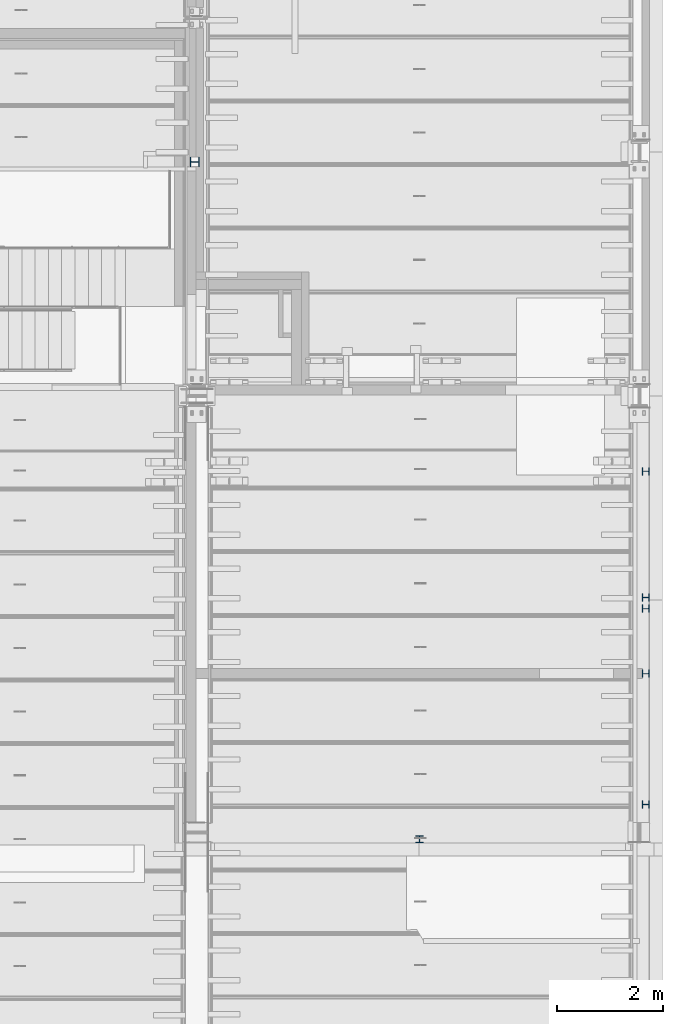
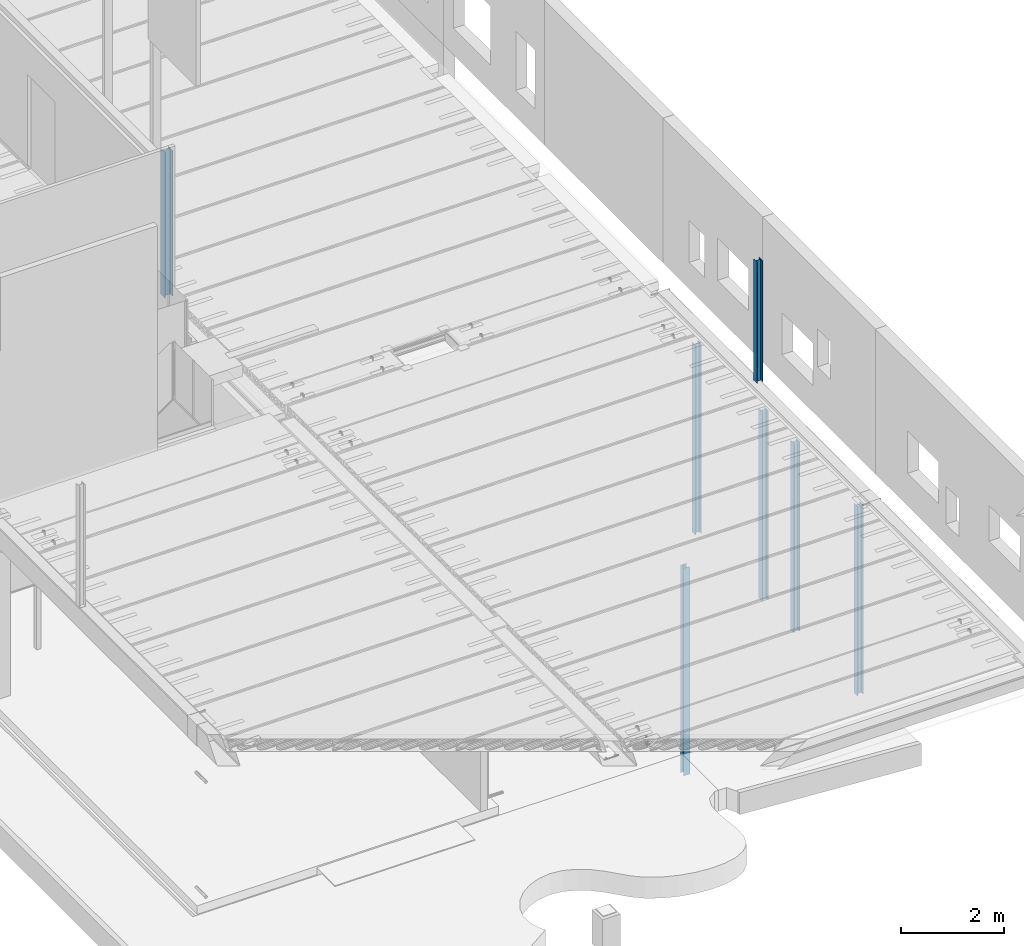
# One storey, part 3 of 230: 7 columns.
"""IFC4X3_ADD2 building model written with IfcOpenShell, lengths in millimetres."""

from ifc_helpers import new_model, si_unit, point, direction, frame, frame_2d, origin_with_axes, place, context, subcontext, project, spatial, polyline, circle_curve, trimmed, segment, composite_curve, outline, extrude, source, transform, mapped, material, type_object, type_shapes, element, save


model = new_model("IFC4X3_ADD2")

# Units and contexts
model_context = context("Model", 3, precision=1e-05, world=origin_with_axes(), true_north=direction((0.0, 1.0)))
body_context = subcontext(model_context, "Body", "Model", "MODEL_VIEW")
ifc_project = project(units=[si_unit("LENGTHUNIT", "METRE", prefix="MILLI"), si_unit("AREAUNIT", "SQUARE_METRE"), si_unit("VOLUMEUNIT", "CUBIC_METRE"), si_unit("PLANEANGLEUNIT", "RADIAN"), si_unit("TIMEUNIT", "SECOND"), si_unit("MASSUNIT", "GRAM")], contexts=[model_context])

# Site, building, storey
site_placement = place(None, origin_with_axes())
site = spatial("IfcSite", under=ifc_project, at=site_placement, Name="Site", CompositionType="ELEMENT")
building_placement = place(site_placement, origin_with_axes())
building = spatial("IfcBuilding", under=site, at=building_placement, Name="IFC Building Story")
storey_placement = place(building_placement, origin_with_axes())
storey = spatial("IfcBuildingStorey", under=building, at=storey_placement, Name="ETAGE 00 (0)", Elevation=0.0)

# Columns
ifc_material = material(Name="BS_28_Métal")
column_type_1 = type_object("IfcColumnType", Name="BS_28_SCO_LE_Poteau HE-A_HEA180_5", PredefinedType="NOTDEFINED")
shared_shape_1 = source(origin_with_axes(), body_context, "Body", "SweptSolid", [
    extrude(outline(composite_curve([segment(polyline([(85.5, -90.00000000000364), (76.0, -90.00000000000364)]), True, "CONTINUOUS"), segment(polyline([(76.0, -90.00000000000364), (76.0, -18.00000000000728)]), True, "CONTINUOUS"), segment(trimmed(circle_curve(frame_2d((60.99999999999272, -18.00000000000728), x_axis=(1.0, 0.0)), 14.99999999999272), [point((76.0, -18.00000000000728))], [point((60.99999999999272, -3.000000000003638))], True, "CARTESIAN"), True, "CONTINUOUS"), segment(polyline([(60.99999999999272, -3.000000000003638), (-60.99999999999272, -3.000000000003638)]), True, "CONTINUOUS"), segment(trimmed(circle_curve(frame_2d((-60.99999999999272, -18.00000000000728), x_axis=(1.0, 0.0)), 14.99999999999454), [point((-60.99999999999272, -3.000000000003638))], [point((-75.99999999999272, -18.00000000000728))], True, "CARTESIAN"), True, "CONTINUOUS"), segment(polyline([(-75.99999999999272, -18.00000000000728), (-75.99999999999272, -90.00000000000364)]), True, "CONTINUOUS"), segment(polyline([(-75.99999999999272, -90.00000000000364), (-85.49999999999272, -90.00000000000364)]), True, "CONTINUOUS"), segment(polyline([(-85.49999999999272, -90.00000000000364), (-85.49999999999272, 89.99999999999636)]), True, "CONTINUOUS"), segment(polyline([(-85.49999999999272, 89.99999999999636), (-75.99999999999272, 89.99999999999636)]), True, "CONTINUOUS"), segment(polyline([(-75.99999999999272, 89.99999999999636), (-75.99999999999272, 17.99999999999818)]), True, "CONTINUOUS"), segment(trimmed(circle_curve(frame_2d((-60.99999999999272, 17.99999999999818), x_axis=(1.0, 0.0)), 14.99999999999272), [point((-75.99999999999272, 17.99999999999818))], [point((-60.99999999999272, 2.999999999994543))], True, "CARTESIAN"), True, "CONTINUOUS"), segment(polyline([(-60.99999999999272, 2.999999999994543), (60.99999999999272, 2.999999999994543)]), True, "CONTINUOUS"), segment(trimmed(circle_curve(frame_2d((60.99999999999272, 17.99999999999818), x_axis=(1.0, 0.0)), 14.99999999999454), [point((60.99999999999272, 2.999999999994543))], [point((76.0, 17.99999999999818))], True, "CARTESIAN"), True, "CONTINUOUS"), segment(polyline([(76.0, 17.99999999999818), (76.0, 89.99999999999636)]), True, "CONTINUOUS"), segment(polyline([(76.0, 89.99999999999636), (85.5, 89.99999999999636)]), True, "CONTINUOUS"), segment(polyline([(85.5, 89.99999999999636), (85.5, -90.00000000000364)]), True, "CONTINUOUS")], self_intersect=False)), frame((39931.6894781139, 4608.83965321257, 4315.0), z_axis=(0.0, 0.0, 1.0), x_axis=(1.0, 0.0, 0.0)), (0.0, 0.0, 1.0), 3445.0),
])
type_shapes(column_type_1, [shared_shape_1])
column_1_placement = place(storey_placement, origin_with_axes())
element("IfcColumn", 1, at=column_1_placement, inside=storey, type_object=column_type_1, material=ifc_material, Name="BS_28_SCO_LE_Poteau HE-A:HEA180", ObjectType="HEA180", context=body_context, shape_type="MappedRepresentation", body=[
    mapped(shared_shape_1, transform((0.0, 0.0, 0.0))),
])
column_type_2 = type_object("IfcColumnType", Name="BS_28_SCO_LE_Poteau HE-A_HEA140", PredefinedType="NOTDEFINED")
shared_shape_2 = source(origin_with_axes(), body_context, "Body", "SweptSolid", [
    extrude(outline(composite_curve([segment(polyline([(66.49999999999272, -70.00000000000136), (58.0, -70.00000000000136)]), True, "CONTINUOUS"), segment(polyline([(58.0, -70.00000000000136), (58.0, -14.74999999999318)]), True, "CONTINUOUS"), segment(trimmed(circle_curve(frame_2d((46.00000000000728, -14.74999999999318), x_axis=(1.0, 0.0)), 11.99999999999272), [point((58.0, -14.74999999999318))], [point((46.00000000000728, -2.750000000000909))], True, "CARTESIAN"), True, "CONTINUOUS"), segment(polyline([(46.00000000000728, -2.750000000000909), (-46.00000000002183, -2.750000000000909)]), True, "CONTINUOUS"), segment(trimmed(circle_curve(frame_2d((-46.00000000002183, -14.74999999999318), x_axis=(1.0, 0.0)), 11.99999999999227), [point((-46.00000000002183, -2.750000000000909))], [point((-58.00000000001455, -14.74999999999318))], True, "CARTESIAN"), True, "CONTINUOUS"), segment(polyline([(-58.00000000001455, -14.74999999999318), (-58.00000000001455, -70.00000000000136)]), True, "CONTINUOUS"), segment(polyline([(-58.00000000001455, -70.00000000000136), (-66.50000000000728, -70.00000000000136)]), True, "CONTINUOUS"), segment(polyline([(-66.50000000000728, -70.00000000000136), (-66.50000000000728, 69.99999999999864)]), True, "CONTINUOUS"), segment(polyline([(-66.50000000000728, 69.99999999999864), (-58.00000000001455, 69.99999999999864)]), True, "CONTINUOUS"), segment(polyline([(-58.00000000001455, 69.99999999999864), (-58.00000000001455, 14.74999999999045)]), True, "CONTINUOUS"), segment(trimmed(circle_curve(frame_2d((-46.00000000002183, 14.74999999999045), x_axis=(1.0, 0.0)), 11.99999999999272), [point((-58.00000000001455, 14.74999999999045))], [point((-46.00000000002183, 2.749999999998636))], True, "CARTESIAN"), True, "CONTINUOUS"), segment(polyline([(-46.00000000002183, 2.749999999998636), (46.00000000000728, 2.749999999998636)]), True, "CONTINUOUS"), segment(trimmed(circle_curve(frame_2d((46.00000000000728, 14.74999999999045), x_axis=(1.0, 0.0)), 11.99999999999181), [point((46.00000000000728, 2.749999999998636))], [point((58.0, 14.74999999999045))], True, "CARTESIAN"), True, "CONTINUOUS"), segment(polyline([(58.0, 14.74999999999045), (58.0, 69.99999999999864)]), True, "CONTINUOUS"), segment(polyline([(58.0, 69.99999999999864), (66.49999999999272, 69.99999999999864)]), True, "CONTINUOUS"), segment(polyline([(66.49999999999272, 69.99999999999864), (66.49999999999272, -70.00000000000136)]), True, "CONTINUOUS")], self_intersect=False)), frame((48430.18934819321, -3815.000018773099, -740.0), z_axis=(0.0, 0.0, 1.0), x_axis=(1.0, 0.0, 0.0)), (0.0, 0.0, 1.0), 4480.0),
])
type_shapes(column_type_2, [shared_shape_2])
column_2_placement = place(storey_placement, origin_with_axes())
element("IfcColumn", 2, at=column_2_placement, inside=storey, type_object=column_type_2, material=ifc_material, Name="BS_28_SCO_LE_Poteau HE-A:HEA140", ObjectType="HEA140", context=body_context, shape_type="MappedRepresentation", body=[
    mapped(shared_shape_2, transform((0.0, 0.0, 0.0))),
])
column_type_3 = type_object("IfcColumnType", Name="BS_28_SCO_LE_Poteau HE-A_HEA140_3", PredefinedType="NOTDEFINED")
shared_shape_3 = source(origin_with_axes(), body_context, "Body", "SweptSolid", [
    extrude(outline(composite_curve([segment(polyline([(66.49999999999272, -70.00000000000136), (58.0, -70.00000000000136)]), True, "CONTINUOUS"), segment(polyline([(58.0, -70.00000000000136), (58.0, -14.74999999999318)]), True, "CONTINUOUS"), segment(trimmed(circle_curve(frame_2d((46.00000000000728, -14.74999999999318), x_axis=(1.0, 0.0)), 11.99999999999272), [point((58.0, -14.74999999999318))], [point((46.00000000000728, -2.750000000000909))], True, "CARTESIAN"), True, "CONTINUOUS"), segment(polyline([(46.00000000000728, -2.750000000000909), (-46.00000000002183, -2.750000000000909)]), True, "CONTINUOUS"), segment(trimmed(circle_curve(frame_2d((-46.00000000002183, -14.74999999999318), x_axis=(1.0, 0.0)), 11.99999999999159), [point((-46.00000000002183, -2.750000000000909))], [point((-58.00000000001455, -14.74999999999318))], True, "CARTESIAN"), True, "CONTINUOUS"), segment(polyline([(-58.00000000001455, -14.74999999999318), (-58.00000000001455, -70.00000000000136)]), True, "CONTINUOUS"), segment(polyline([(-58.00000000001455, -70.00000000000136), (-66.50000000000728, -70.00000000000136)]), True, "CONTINUOUS"), segment(polyline([(-66.50000000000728, -70.00000000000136), (-66.50000000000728, 69.99999999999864)]), True, "CONTINUOUS"), segment(polyline([(-66.50000000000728, 69.99999999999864), (-58.00000000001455, 69.99999999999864)]), True, "CONTINUOUS"), segment(polyline([(-58.00000000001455, 69.99999999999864), (-58.00000000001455, 14.74999999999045)]), True, "CONTINUOUS"), segment(trimmed(circle_curve(frame_2d((-46.00000000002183, 14.74999999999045), x_axis=(1.0, 0.0)), 11.99999999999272), [point((-58.00000000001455, 14.74999999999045))], [point((-46.00000000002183, 2.749999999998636))], True, "CARTESIAN"), True, "CONTINUOUS"), segment(polyline([(-46.00000000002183, 2.749999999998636), (46.00000000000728, 2.749999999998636)]), True, "CONTINUOUS"), segment(trimmed(circle_curve(frame_2d((46.00000000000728, 14.74999999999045), x_axis=(1.0, 0.0)), 11.99999999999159), [point((46.00000000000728, 2.749999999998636))], [point((58.0, 14.74999999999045))], True, "CARTESIAN"), True, "CONTINUOUS"), segment(polyline([(58.0, 14.74999999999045), (58.0, 69.99999999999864)]), True, "CONTINUOUS"), segment(polyline([(58.0, 69.99999999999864), (66.49999999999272, 69.99999999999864)]), True, "CONTINUOUS"), segment(polyline([(66.49999999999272, 69.99999999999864), (66.49999999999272, -70.00000000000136)]), True, "CONTINUOUS")], self_intersect=False)), frame((48430.18934819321, -1225.00001877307, -740.0), z_axis=(0.0, 0.0, 1.0), x_axis=(1.0, 0.0, 0.0)), (0.0, 0.0, 1.0), 4480.0),
])
type_shapes(column_type_3, [shared_shape_3])
column_3_placement = place(storey_placement, origin_with_axes())
element("IfcColumn", 3, at=column_3_placement, inside=storey, type_object=column_type_3, material=ifc_material, Name="BS_28_SCO_LE_Poteau HE-A:HEA140", ObjectType="HEA140", context=body_context, shape_type="MappedRepresentation", body=[
    mapped(shared_shape_3, transform((0.0, 0.0, 0.0))),
])
column_type_4 = type_object("IfcColumnType", Name="BS_28_SCO_LE_Poteau HE-A_HEA140_5", PredefinedType="NOTDEFINED")
shared_shape_4 = source(origin_with_axes(), body_context, "Body", "SweptSolid", [
    extrude(outline(composite_curve([segment(polyline([(66.49999999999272, -70.00000000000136), (58.0, -70.00000000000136)]), True, "CONTINUOUS"), segment(polyline([(58.0, -70.00000000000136), (58.0, -14.74999999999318)]), True, "CONTINUOUS"), segment(trimmed(circle_curve(frame_2d((46.00000000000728, -14.74999999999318), x_axis=(1.0, 0.0)), 11.99999999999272), [point((58.0, -14.74999999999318))], [point((46.00000000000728, -2.750000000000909))], True, "CARTESIAN"), True, "CONTINUOUS"), segment(polyline([(46.00000000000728, -2.750000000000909), (-46.00000000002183, -2.750000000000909)]), True, "CONTINUOUS"), segment(trimmed(circle_curve(frame_2d((-46.00000000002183, -14.74999999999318), x_axis=(1.0, 0.0)), 11.99999999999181), [point((-46.00000000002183, -2.750000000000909))], [point((-58.00000000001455, -14.74999999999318))], True, "CARTESIAN"), True, "CONTINUOUS"), segment(polyline([(-58.00000000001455, -14.74999999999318), (-58.00000000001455, -70.00000000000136)]), True, "CONTINUOUS"), segment(polyline([(-58.00000000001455, -70.00000000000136), (-66.50000000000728, -70.00000000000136)]), True, "CONTINUOUS"), segment(polyline([(-66.50000000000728, -70.00000000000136), (-66.50000000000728, 69.99999999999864)]), True, "CONTINUOUS"), segment(polyline([(-66.50000000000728, 69.99999999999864), (-58.00000000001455, 69.99999999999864)]), True, "CONTINUOUS"), segment(polyline([(-58.00000000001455, 69.99999999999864), (-58.00000000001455, 14.74999999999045)]), True, "CONTINUOUS"), segment(trimmed(circle_curve(frame_2d((-46.00000000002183, 14.74999999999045), x_axis=(1.0, 0.0)), 11.99999999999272), [point((-58.00000000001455, 14.74999999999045))], [point((-46.00000000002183, 2.749999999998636))], True, "CARTESIAN"), True, "CONTINUOUS"), segment(polyline([(-46.00000000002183, 2.749999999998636), (46.00000000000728, 2.749999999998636)]), True, "CONTINUOUS"), segment(trimmed(circle_curve(frame_2d((46.00000000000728, 14.74999999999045), x_axis=(1.0, 0.0)), 11.99999999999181), [point((46.00000000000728, 2.749999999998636))], [point((58.0, 14.74999999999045))], True, "CARTESIAN"), True, "CONTINUOUS"), segment(polyline([(58.0, 14.74999999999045), (58.0, 69.99999999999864)]), True, "CONTINUOUS"), segment(polyline([(58.0, 69.99999999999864), (66.49999999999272, 69.99999999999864)]), True, "CONTINUOUS"), segment(polyline([(66.49999999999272, 69.99999999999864), (66.49999999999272, -70.00000000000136)]), True, "CONTINUOUS")], self_intersect=False)), frame((48430.18934819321, -5040.499913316, -740.0), z_axis=(0.0, 0.0, 1.0), x_axis=(1.0, 0.0, 0.0)), (0.0, 0.0, 1.0), 4480.0),
])
type_shapes(column_type_4, [shared_shape_4])
column_4_placement = place(storey_placement, origin_with_axes())
element("IfcColumn", 4, at=column_4_placement, inside=storey, type_object=column_type_4, material=ifc_material, Name="BS_28_SCO_LE_Poteau HE-A:HEA140", ObjectType="HEA140", context=body_context, shape_type="MappedRepresentation", body=[
    mapped(shared_shape_4, transform((0.0, 0.0, 0.0))),
])
column_type_5 = type_object("IfcColumnType", Name="BS_28_SCO_LE_Poteau HE-A_HEA140_7", PredefinedType="NOTDEFINED")
shared_shape_5 = source(origin_with_axes(), body_context, "Body", "SweptSolid", [
    extrude(outline(composite_curve([segment(polyline([(66.49999999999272, -70.00000000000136), (58.0, -70.00000000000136)]), True, "CONTINUOUS"), segment(polyline([(58.0, -70.00000000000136), (58.0, -14.74999999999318)]), True, "CONTINUOUS"), segment(trimmed(circle_curve(frame_2d((46.00000000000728, -14.74999999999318), x_axis=(1.0, 0.0)), 11.99999999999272), [point((58.0, -14.74999999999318))], [point((46.00000000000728, -2.750000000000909))], True, "CARTESIAN"), True, "CONTINUOUS"), segment(polyline([(46.00000000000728, -2.750000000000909), (-46.00000000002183, -2.750000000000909)]), True, "CONTINUOUS"), segment(trimmed(circle_curve(frame_2d((-46.00000000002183, -14.74999999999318), x_axis=(1.0, 0.0)), 11.99999999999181), [point((-46.00000000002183, -2.750000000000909))], [point((-58.00000000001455, -14.74999999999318))], True, "CARTESIAN"), True, "CONTINUOUS"), segment(polyline([(-58.00000000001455, -14.74999999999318), (-58.00000000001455, -70.00000000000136)]), True, "CONTINUOUS"), segment(polyline([(-58.00000000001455, -70.00000000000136), (-66.50000000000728, -70.00000000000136)]), True, "CONTINUOUS"), segment(polyline([(-66.50000000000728, -70.00000000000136), (-66.50000000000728, 69.99999999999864)]), True, "CONTINUOUS"), segment(polyline([(-66.50000000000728, 69.99999999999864), (-58.00000000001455, 69.99999999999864)]), True, "CONTINUOUS"), segment(polyline([(-58.00000000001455, 69.99999999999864), (-58.00000000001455, 14.74999999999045)]), True, "CONTINUOUS"), segment(trimmed(circle_curve(frame_2d((-46.00000000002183, 14.74999999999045), x_axis=(1.0, 0.0)), 11.99999999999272), [point((-58.00000000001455, 14.74999999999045))], [point((-46.00000000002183, 2.749999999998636))], True, "CARTESIAN"), True, "CONTINUOUS"), segment(polyline([(-46.00000000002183, 2.749999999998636), (46.00000000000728, 2.749999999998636)]), True, "CONTINUOUS"), segment(trimmed(circle_curve(frame_2d((46.00000000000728, 14.74999999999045), x_axis=(1.0, 0.0)), 11.99999999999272), [point((46.00000000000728, 2.749999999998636))], [point((58.0, 14.74999999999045))], True, "CARTESIAN"), True, "CONTINUOUS"), segment(polyline([(58.0, 14.74999999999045), (58.0, 69.99999999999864)]), True, "CONTINUOUS"), segment(polyline([(58.0, 69.99999999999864), (66.49999999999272, 69.99999999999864)]), True, "CONTINUOUS"), segment(polyline([(66.49999999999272, 69.99999999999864), (66.49999999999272, -70.00000000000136)]), True, "CONTINUOUS")], self_intersect=False)), frame((48430.18934819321, -7505.60531877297, -740.0), z_axis=(0.0, 0.0, 1.0), x_axis=(1.0, 0.0, 0.0)), (0.0, 0.0, 1.0), 4480.0),
])
type_shapes(column_type_5, [shared_shape_5])
column_5_placement = place(storey_placement, origin_with_axes())
element("IfcColumn", 5, at=column_5_placement, inside=storey, type_object=column_type_5, material=ifc_material, Name="BS_28_SCO_LE_Poteau HE-A:HEA140", ObjectType="HEA140", context=body_context, shape_type="MappedRepresentation", body=[
    mapped(shared_shape_5, transform((0.0, 0.0, 0.0))),
])
column_type_6 = type_object("IfcColumnType", Name="BS_28_SCO_LE_Poteau HE-A_HEA140_11", PredefinedType="NOTDEFINED")
shared_shape_6 = source(origin_with_axes(), body_context, "Body", "SweptSolid", [
    extrude(outline(composite_curve([segment(polyline([(-70.00000000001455, -57.99999999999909), (-14.75000000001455, -57.99999999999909)]), True, "CONTINUOUS"), segment(trimmed(circle_curve(frame_2d((-14.75, -46.00000000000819), x_axis=(1.0, 0.0)), 11.99999999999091), [point((-14.75000000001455, -57.99999999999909))], [point((-2.750000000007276, -45.99999999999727))], True, "CARTESIAN"), True, "CONTINUOUS"), segment(polyline([(-2.750000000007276, -45.99999999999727), (-2.750000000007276, 45.99999999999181)]), True, "CONTINUOUS"), segment(trimmed(circle_curve(frame_2d((-14.75, 46.00000000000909), x_axis=(1.0, 0.0)), 11.99999999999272), [point((-2.750000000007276, 45.99999999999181))], [point((-14.75000000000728, 58.0))], True, "CARTESIAN"), True, "CONTINUOUS"), segment(polyline([(-14.75000000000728, 58.0), (-70.00000000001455, 58.0)]), True, "CONTINUOUS"), segment(polyline([(-70.00000000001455, 58.0), (-70.00000000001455, 66.50000000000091)]), True, "CONTINUOUS"), segment(polyline([(-70.00000000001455, 66.50000000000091), (69.99999999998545, 66.50000000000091)]), True, "CONTINUOUS"), segment(polyline([(69.99999999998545, 66.50000000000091), (69.99999999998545, 58.0)]), True, "CONTINUOUS"), segment(polyline([(69.99999999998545, 58.0), (14.74999999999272, 58.0)]), True, "CONTINUOUS"), segment(trimmed(circle_curve(frame_2d((14.74999999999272, 46.00000000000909), x_axis=(1.0, 0.0)), 11.99999999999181), [point((14.74999999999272, 58.0))], [point((2.75, 46.0))], True, "CARTESIAN"), True, "CONTINUOUS"), segment(polyline([(2.75, 46.0), (2.75, -45.99999999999)]), True, "CONTINUOUS"), segment(trimmed(circle_curve(frame_2d((14.74999999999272, -46.00000000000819), x_axis=(1.0, 0.0)), 11.99999999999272), [point((2.75, -45.99999999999))], [point((14.75, -57.99999999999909))], True, "CARTESIAN"), True, "CONTINUOUS"), segment(polyline([(14.75, -57.99999999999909), (69.99999999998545, -57.99999999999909)]), True, "CONTINUOUS"), segment(polyline([(69.99999999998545, -57.99999999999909), (69.99999999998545, -66.49999999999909)]), True, "CONTINUOUS"), segment(polyline([(69.99999999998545, -66.49999999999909), (-70.00000000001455, -66.49999999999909)]), True, "CONTINUOUS"), segment(polyline([(-70.00000000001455, -66.49999999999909), (-70.00000000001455, -57.99999999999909)]), True, "CONTINUOUS")], self_intersect=False)), frame((44164.68934819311, -8163.500086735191, -740.0), z_axis=(0.0, 0.0, 1.0), x_axis=(1.0, 0.0, 0.0)), (0.0, 0.0, 1.0), 4910.0),
])
type_shapes(column_type_6, [shared_shape_6])
column_6_placement = place(storey_placement, origin_with_axes())
element("IfcColumn", 6, at=column_6_placement, inside=storey, type_object=column_type_6, material=ifc_material, Name="BS_28_SCO_LE_Poteau HE-A:HEA140", ObjectType="HEA140", context=body_context, shape_type="MappedRepresentation", body=[
    mapped(shared_shape_6, transform((0.0, 0.0, 0.0))),
])
column_type_7 = type_object("IfcColumnType", Name="BS_28_SCO_LE_Poteau HE-A_HEA140_13", PredefinedType="NOTDEFINED")
shared_shape_7 = source(origin_with_axes(), body_context, "Body", "SweptSolid", [
    extrude(outline(composite_curve([segment(polyline([(66.49999999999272, -70.00000000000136), (58.0, -70.00000000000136)]), True, "CONTINUOUS"), segment(polyline([(58.0, -70.00000000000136), (58.0, -14.74999999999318)]), True, "CONTINUOUS"), segment(trimmed(circle_curve(frame_2d((46.00000000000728, -14.74999999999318), x_axis=(1.0, 0.0)), 11.99999999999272), [point((58.0, -14.74999999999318))], [point((46.00000000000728, -2.750000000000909))], True, "CARTESIAN"), True, "CONTINUOUS"), segment(polyline([(46.00000000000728, -2.750000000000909), (-46.00000000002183, -2.750000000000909)]), True, "CONTINUOUS"), segment(trimmed(circle_curve(frame_2d((-46.00000000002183, -14.74999999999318), x_axis=(1.0, 0.0)), 11.99999999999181), [point((-46.00000000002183, -2.750000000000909))], [point((-58.00000000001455, -14.74999999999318))], True, "CARTESIAN"), True, "CONTINUOUS"), segment(polyline([(-58.00000000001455, -14.74999999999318), (-58.00000000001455, -70.00000000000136)]), True, "CONTINUOUS"), segment(polyline([(-58.00000000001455, -70.00000000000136), (-66.50000000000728, -70.00000000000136)]), True, "CONTINUOUS"), segment(polyline([(-66.50000000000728, -70.00000000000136), (-66.50000000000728, 69.99999999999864)]), True, "CONTINUOUS"), segment(polyline([(-66.50000000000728, 69.99999999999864), (-58.00000000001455, 69.99999999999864)]), True, "CONTINUOUS"), segment(polyline([(-58.00000000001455, 69.99999999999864), (-58.00000000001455, 14.74999999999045)]), True, "CONTINUOUS"), segment(trimmed(circle_curve(frame_2d((-46.00000000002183, 14.74999999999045), x_axis=(1.0, 0.0)), 11.99999999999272), [point((-58.00000000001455, 14.74999999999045))], [point((-46.00000000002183, 2.749999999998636))], True, "CARTESIAN"), True, "CONTINUOUS"), segment(polyline([(-46.00000000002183, 2.749999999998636), (46.00000000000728, 2.749999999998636)]), True, "CONTINUOUS"), segment(trimmed(circle_curve(frame_2d((46.00000000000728, 14.74999999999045), x_axis=(1.0, 0.0)), 11.99999999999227), [point((46.00000000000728, 2.749999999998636))], [point((58.0, 14.74999999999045))], True, "CARTESIAN"), True, "CONTINUOUS"), segment(polyline([(58.0, 14.74999999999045), (58.0, 69.99999999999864)]), True, "CONTINUOUS"), segment(polyline([(58.0, 69.99999999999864), (66.49999999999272, 69.99999999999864)]), True, "CONTINUOUS"), segment(polyline([(66.49999999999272, 69.99999999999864), (66.49999999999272, -70.00000000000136)]), True, "CONTINUOUS")], self_intersect=False)), frame((48434.68934820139, -3606.251009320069, 4290.0), z_axis=(0.0, 0.0, 1.0), x_axis=(1.0, 0.0, 0.0)), (0.0, 0.0, 1.0), 2864.8),
])
type_shapes(column_type_7, [shared_shape_7])
column_7_placement = place(storey_placement, origin_with_axes())
element("IfcColumn", 7, at=column_7_placement, inside=storey, type_object=column_type_7, material=ifc_material, Name="BS_28_SCO_LE_Poteau HE-A:HEA140", ObjectType="HEA140", context=body_context, shape_type="MappedRepresentation", body=[
    mapped(shared_shape_7, transform((0.0, 0.0, 0.0))),
])

save(model, "model.ifc")
